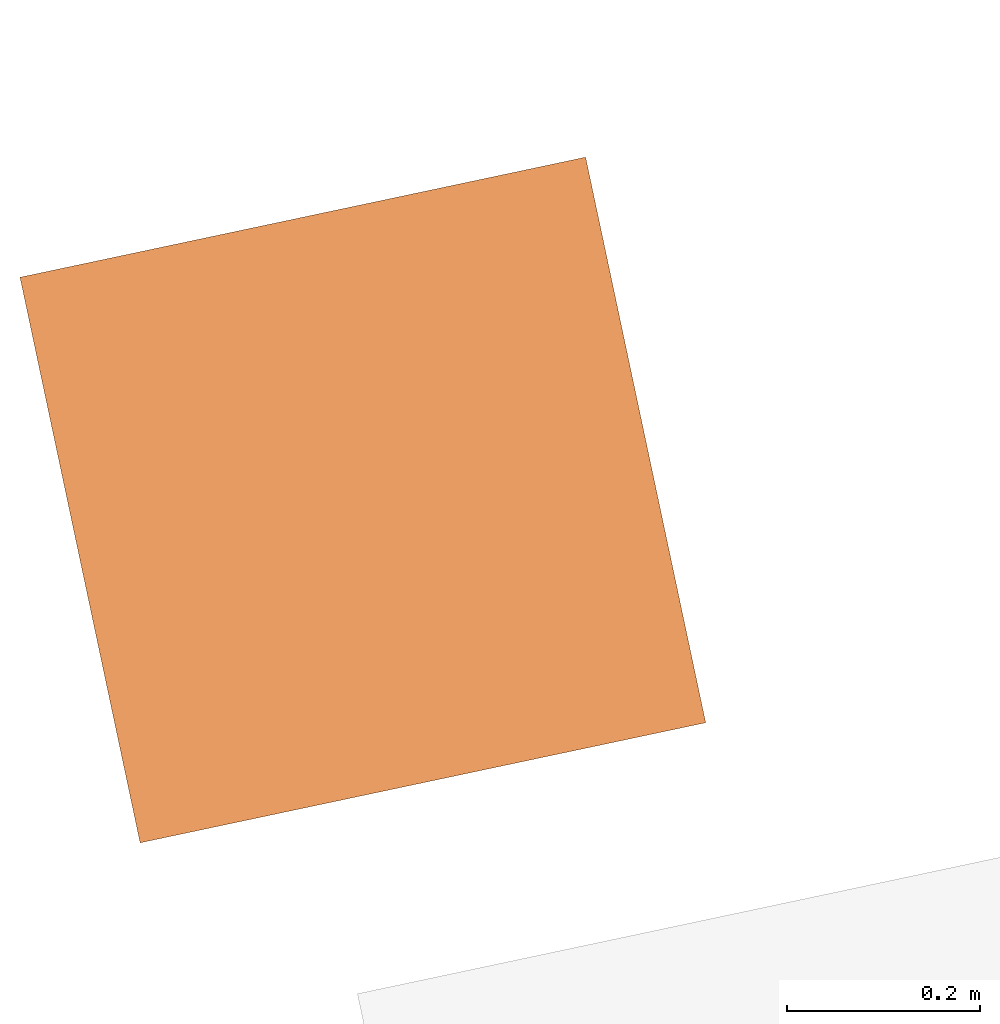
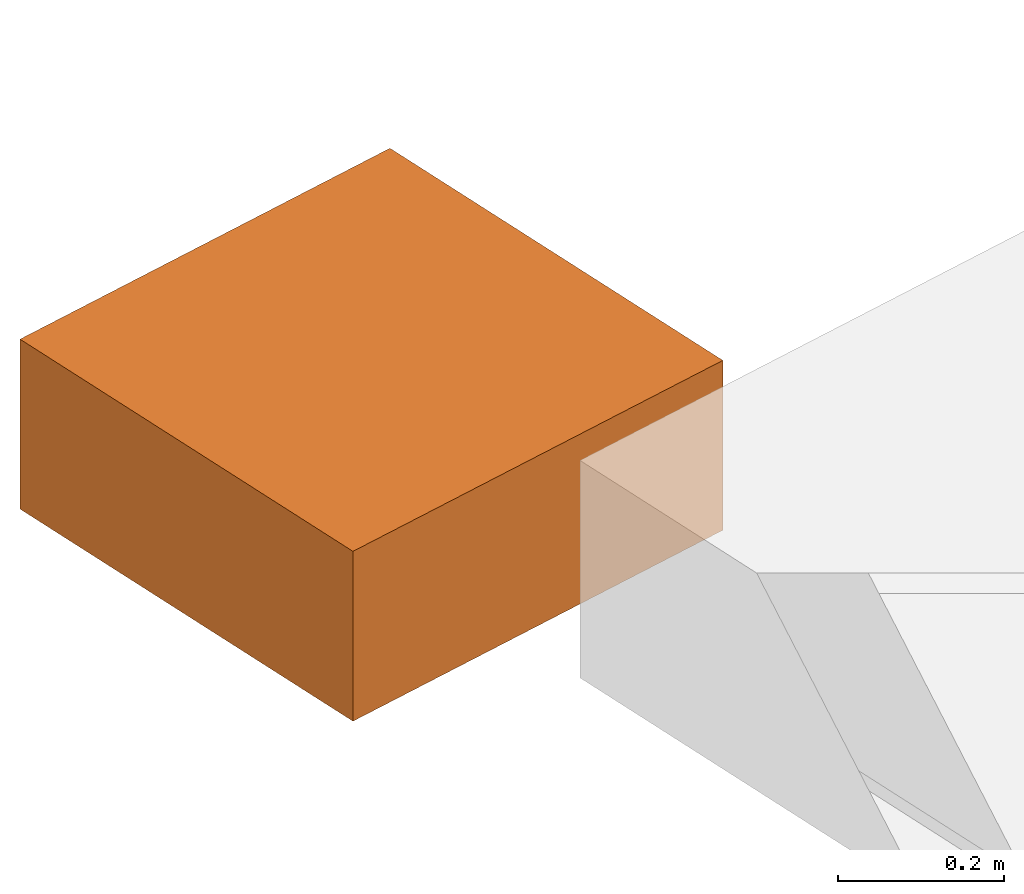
# One storey, part 11 of 11: 1 proxy.
"""IFC2X3 building model written with IfcOpenShell, lengths in centimetres."""

from ifc_helpers import new_model, entity, si_unit, converted_unit, derived_unit, direction, frame, origin, origin_2d_with_axis, place, context, subcontext, project, spatial, rectangle, extrude, source, transform, mapped, material, type_object, type_shapes, element, save


model = new_model("IFC2X3")

# Units and contexts
model_context = context("Model", 3, precision=0.001, world=origin(), true_north=direction((6.12303176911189e-17, 1.0)))
body_context = subcontext(model_context, "Body", "Model", "MODEL_VIEW")
ifc_project = project(units=[si_unit("LENGTHUNIT", "METRE", prefix="CENTI"), si_unit("AREAUNIT", "SQUARE_METRE"), si_unit("VOLUMEUNIT", "CUBIC_METRE"), converted_unit("PLANEANGLEUNIT", "DEGREE", entity("IfcRatioMeasure", 0.0174532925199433), si_unit("PLANEANGLEUNIT", "RADIAN"), dimensions=[0, 0, 0, 0, 0, 0, 0]), si_unit("MASSUNIT", "GRAM", prefix="KILO"), derived_unit("MASSDENSITYUNIT", [(si_unit("MASSUNIT", "GRAM", prefix="KILO"), 1), (si_unit("LENGTHUNIT", "METRE"), -3)]), derived_unit("IONCONCENTRATIONUNIT", [(si_unit("MASSUNIT", "GRAM", prefix="KILO"), 1), (si_unit("LENGTHUNIT", "METRE"), -3)]), derived_unit("MOMENTOFINERTIAUNIT", [(si_unit("LENGTHUNIT", "METRE"), 4)]), si_unit("TIMEUNIT", "SECOND"), si_unit("FREQUENCYUNIT", "HERTZ"), si_unit("THERMODYNAMICTEMPERATUREUNIT", "DEGREE_CELSIUS"), derived_unit("THERMALTRANSMITTANCEUNIT", [(si_unit("MASSUNIT", "GRAM", prefix="KILO"), 1), (si_unit("THERMODYNAMICTEMPERATUREUNIT", "KELVIN"), -1), (si_unit("TIMEUNIT", "SECOND"), -3)]), derived_unit("THERMALCONDUCTANCEUNIT", [(si_unit("MASSUNIT", "GRAM", prefix="KILO"), 1), (si_unit("THERMODYNAMICTEMPERATUREUNIT", "KELVIN"), -1), (si_unit("TIMEUNIT", "SECOND"), -3), (si_unit("LENGTHUNIT", "METRE"), 1)]), derived_unit("VOLUMETRICFLOWRATEUNIT", [(si_unit("LENGTHUNIT", "METRE"), 3), (si_unit("TIMEUNIT", "SECOND"), -1)]), derived_unit("MASSFLOWRATEUNIT", [(si_unit("MASSUNIT", "GRAM", prefix="KILO"), 1), (si_unit("TIMEUNIT", "SECOND"), -1)]), derived_unit("ROTATIONALFREQUENCYUNIT", [(si_unit("TIMEUNIT", "SECOND"), -1)]), si_unit("ELECTRICCURRENTUNIT", "AMPERE"), si_unit("ELECTRICVOLTAGEUNIT", "VOLT"), si_unit("POWERUNIT", "WATT"), si_unit("FORCEUNIT", "NEWTON", prefix="KILO"), si_unit("ILLUMINANCEUNIT", "LUX"), si_unit("LUMINOUSFLUXUNIT", "LUMEN"), si_unit("LUMINOUSINTENSITYUNIT", "CANDELA"), derived_unit("USERDEFINED", [(si_unit("MASSUNIT", "GRAM", prefix="KILO"), -1), (si_unit("LENGTHUNIT", "METRE"), -2), (si_unit("TIMEUNIT", "SECOND"), 3), (si_unit("LUMINOUSFLUXUNIT", "LUMEN"), 1)]), derived_unit("USERDEFINED", [(si_unit("MASSUNIT", "GRAM", prefix="KILO"), 1), (si_unit("TIMEUNIT", "SECOND"), -3), (si_unit("LENGTHUNIT", "METRE"), 3), (si_unit("ELECTRICCURRENTUNIT", "AMPERE"), -2)]), derived_unit("SOUNDPOWERUNIT", [(si_unit("MASSUNIT", "GRAM", prefix="KILO"), 1), (si_unit("TIMEUNIT", "SECOND"), -3), (si_unit("LENGTHUNIT", "METRE"), 2)]), derived_unit("SOUNDPRESSUREUNIT", [(si_unit("MASSUNIT", "GRAM", prefix="KILO"), 1), (si_unit("LENGTHUNIT", "METRE"), -1), (si_unit("TIMEUNIT", "SECOND"), -2)]), derived_unit("LINEARVELOCITYUNIT", [(si_unit("LENGTHUNIT", "METRE"), 1), (si_unit("TIMEUNIT", "SECOND"), -1)]), si_unit("PRESSUREUNIT", "PASCAL"), derived_unit("USERDEFINED", [(si_unit("MASSUNIT", "GRAM", prefix="KILO"), 1), (si_unit("LENGTHUNIT", "METRE"), -2), (si_unit("TIMEUNIT", "SECOND"), -2)]), derived_unit("LINEARFORCEUNIT", [(si_unit("MASSUNIT", "GRAM", prefix="KILO"), 1), (si_unit("TIMEUNIT", "SECOND"), -2)]), derived_unit("PLANARFORCEUNIT", [(si_unit("MASSUNIT", "GRAM", prefix="KILO"), 1), (si_unit("LENGTHUNIT", "METRE"), -1), (si_unit("TIMEUNIT", "SECOND"), -2)]), derived_unit("SPECIFICHEATCAPACITYUNIT", [(si_unit("THERMODYNAMICTEMPERATUREUNIT", "KELVIN"), -1), (si_unit("LENGTHUNIT", "METRE"), 2), (si_unit("TIMEUNIT", "SECOND"), -2)]), derived_unit("HEATINGVALUEUNIT", [(si_unit("LENGTHUNIT", "METRE"), 2), (si_unit("TIMEUNIT", "SECOND"), -2)]), derived_unit("VAPORPERMEABILITYUNIT", [(si_unit("LENGTHUNIT", "METRE"), -1), (si_unit("TIMEUNIT", "SECOND"), 1)]), derived_unit("DYNAMICVISCOSITYUNIT", [(si_unit("MASSUNIT", "GRAM", prefix="KILO"), 1), (si_unit("TIMEUNIT", "SECOND"), -1), (si_unit("LENGTHUNIT", "METRE"), -1)]), derived_unit("THERMALEXPANSIONCOEFFICIENTUNIT", [(si_unit("THERMODYNAMICTEMPERATUREUNIT", "KELVIN"), -1)]), derived_unit("MODULUSOFELASTICITYUNIT", [(si_unit("MASSUNIT", "GRAM", prefix="KILO"), 1), (si_unit("LENGTHUNIT", "METRE"), -1), (si_unit("TIMEUNIT", "SECOND"), -2)]), derived_unit("ISOTHERMALMOISTURECAPACITYUNIT", [(si_unit("LENGTHUNIT", "METRE"), 3), (si_unit("MASSUNIT", "GRAM", prefix="KILO"), -1)]), derived_unit("MOISTUREDIFFUSIVITYUNIT", [(si_unit("TIMEUNIT", "SECOND"), -1), (si_unit("LENGTHUNIT", "METRE"), 2)])], contexts=[model_context])

# Site, building, storey
site_placement = place(None, frame((14083.8920177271, -6853.25409548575, 6900.0), z_axis=(0.0, 0.0, 1.0), x_axis=(0.978188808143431, 0.207717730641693, 0.0)))
site = spatial("IfcSite", under=ifc_project, at=site_placement, Name="Surface", CompositionType="ELEMENT")
building_placement = place(site_placement, origin())
building = spatial("IfcBuilding", under=site, at=building_placement, CompositionType="ELEMENT")
storey_placement = place(building_placement, frame((0.0, 0.0, 17.0)))
storey = spatial("IfcBuildingStorey", under=building, at=storey_placement, Name="Rez de chaussée", CompositionType="ELEMENT", Elevation=17.0000000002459)

# Proxy
ifc_material = material(Name="<Unnamed>")
building_element_proxy_type = type_object("IfcBuildingElementProxyType", Name="RES- REGARD:Regard EP 60*60", PredefinedType="NOTDEFINED", material=ifc_material)
shared_shape = source(origin(), body_context, "Body", "SweptSolid", [
    extrude(rectangle(XDim=59.9999999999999, YDim=59.9999999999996, at=origin_2d_with_axis()), frame((30.0, 30.0, 0.0), z_axis=(0.0, 0.0, 1.0), x_axis=(-1.0, 0.0, 0.0)), (0.0, 0.0, 1.0), 25.0),
])
type_shapes(building_element_proxy_type, [shared_shape])
proxy_placement = place(storey_placement, frame((-8082.7551432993, 15458.9391445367, -40.0)))
element("IfcBuildingElementProxy", 1, at=proxy_placement, inside=storey, type_object=building_element_proxy_type, material=ifc_material, Name="RES- REGARD:Regard EP 60*60", ObjectType="RES- REGARD:Regard EP 60*60", context=body_context, shape_type="MappedRepresentation", body=[
    mapped(shared_shape, transform((0.0, 0.0, 0.0), scale=1.0)),
])

save(model, "model.ifc")
